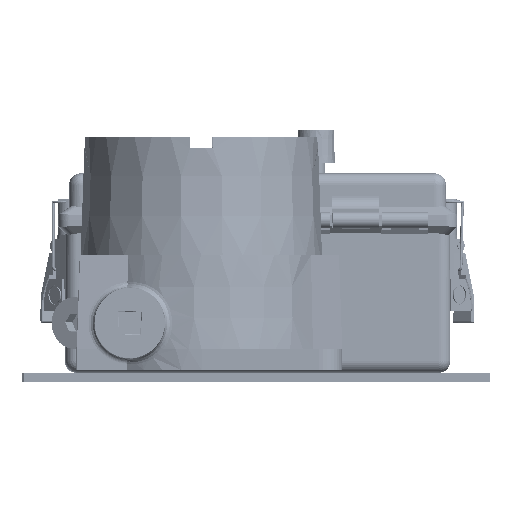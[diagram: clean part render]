
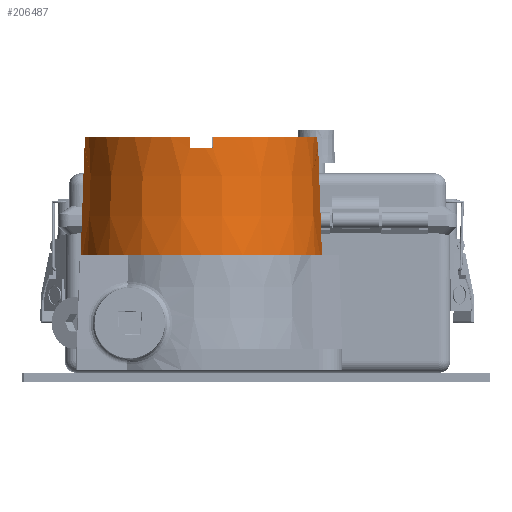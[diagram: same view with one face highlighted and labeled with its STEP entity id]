
A CAD part, left-side view. The second image highlights one B-rep face of the part: STEP entity #206487.
In plain terms, the highlighted conical face has half-angle 2 degrees and reference radius 65.278 mm.
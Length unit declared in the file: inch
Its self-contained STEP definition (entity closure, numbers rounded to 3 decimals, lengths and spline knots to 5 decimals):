
#3407 = EDGE_CURVE ( 'NONE', #348503, #324610, #245439, .T. ) ;
#5058 = CIRCLE ( 'NONE', #104337, 2.48165 ) ;
#12211 = CARTESIAN_POINT ( 'NONE',  ( -9.51356, 1.46455, 5.0325 ) ) ;
#15122 = DIRECTION ( 'NONE',  ( -0.002, 1., 0. ) ) ;
#16395 = VERTEX_POINT ( 'NONE', #247414 ) ;
#21956 = DIRECTION ( 'NONE',  ( -0.002, 1., 0. ) ) ;
#27226 = CARTESIAN_POINT ( 'NONE',  ( -9.75359, 3.93456, 5.0325 ) ) ;
#31430 = CARTESIAN_POINT ( 'NONE',  ( -9.51356, 1.46455, 4.7825 ) ) ;
#32337 = ORIENTED_EDGE ( 'NONE', *, *, #204462, .T. ) ;
#45065 = DIRECTION ( 'NONE',  ( -0.002, 1., 0. ) ) ;
#45720 = B_SPLINE_CURVE_WITH_KNOTS ( 'NONE', 3,
 ( #283275, #48166, #343444, #159138 ),
 .UNSPECIFIED., .F., .F.,
 ( 4, 4 ),
 ( 0., 0.00636 ),
 .UNSPECIFIED. ) ;
#45846 = FACE_OUTER_BOUND ( 'NONE', #88992, .T. ) ;
#48166 = CARTESIAN_POINT ( 'NONE',  ( -11.98886, 1.21869, 4.86583 ) ) ;
#65112 = DIRECTION ( 'NONE',  ( 0., 0.035, -0.999 ) ) ;
#67785 = DIRECTION ( 'NONE',  ( -0.002, 1., 0. ) ) ;
#70401 = CARTESIAN_POINT ( 'NONE',  ( -9.51356, 1.46455, 4.7825 ) ) ;
#74057 = CARTESIAN_POINT ( 'NONE',  ( -9.74935, -1.01172, 4.86583 ) ) ;
#75176 = EDGE_CURVE ( 'NONE', #229095, #168287, #243838, .T. ) ;
#77986 = DIRECTION ( 'NONE',  ( 0., -0.035, -0.999 ) ) ;
#85472 = CARTESIAN_POINT ( 'NONE',  ( -9.51863, 3.95492, 4.7825 ) ) ;
#85960 = ORIENTED_EDGE ( 'NONE', *, *, #252573, .F. ) ;
#88992 = EDGE_LOOP ( 'NONE', ( #159249, #112293, #382295, #143153, #292650, #237853, #32337, #112433, #184297, #85960, #254538, #355016 ) ) ;
#92110 = B_SPLINE_CURVE_WITH_KNOTS ( 'NONE', 3,
 ( #340181, #74057, #128592, #192611 ),
 .UNSPECIFIED., .F., .F.,
 ( 4, 4 ),
 ( 0., 0.00636 ),
 .UNSPECIFIED. ) ;
#93035 = VERTEX_POINT ( 'NONE', #156412 ) ;
#95301 = CIRCLE ( 'NONE', #169881, 2.49038 ) ;
#96222 = CIRCLE ( 'NONE', #139490, 2.49038 ) ;
#98608 = CARTESIAN_POINT ( 'NONE',  ( -11.99248, 1.70324, 4.7825 ) ) ;
#99696 = EDGE_CURVE ( 'NONE', #16395, #93035, #5058, .T. ) ;
#100754 = VERTEX_POINT ( 'NONE', #147968 ) ;
#104337 = AXIS2_PLACEMENT_3D ( 'NONE', #12211, #247274, #365737 ) ;
#110960 = LINE ( 'NONE', #231353, #356370 ) ;
#111324 = CARTESIAN_POINT ( 'NONE',  ( -9.51356, 1.46455, 5.0325 ) ) ;
#111369 = CARTESIAN_POINT ( 'NONE',  ( -9.75651, 3.9372, 4.94917 ) ) ;
#112293 = ORIENTED_EDGE ( 'NONE', *, *, #208948, .F. ) ;
#112433 = ORIENTED_EDGE ( 'NONE', *, *, #283226, .F. ) ;
#112888 = CIRCLE ( 'NONE', #329991, 2.49038 ) ;
#113167 = CARTESIAN_POINT ( 'NONE',  ( -9.51356, 1.46455, 2.5025 ) ) ;
#125837 = CARTESIAN_POINT ( 'NONE',  ( -9.76234, 3.94247, 4.7825 ) ) ;
#128592 = CARTESIAN_POINT ( 'NONE',  ( -9.74644, -1.00908, 4.94917 ) ) ;
#139490 = AXIS2_PLACEMENT_3D ( 'NONE', #70401, #192749, #45065 ) ;
#142428 = CARTESIAN_POINT ( 'NONE',  ( -9.76234, 3.94247, 4.7825 ) ) ;
#143153 = ORIENTED_EDGE ( 'NONE', *, *, #99696, .F. ) ;
#147968 = CARTESIAN_POINT ( 'NONE',  ( -9.50834, -1.10545, 2.5025 ) ) ;
#156412 = CARTESIAN_POINT ( 'NONE',  ( -9.74354, -1.00642, 5.0325 ) ) ;
#157608 = VERTEX_POINT ( 'NONE', #305307 ) ;
#159138 = CARTESIAN_POINT ( 'NONE',  ( -11.98358, 1.22452, 5.0325 ) ) ;
#159249 = ORIENTED_EDGE ( 'NONE', *, *, #368775, .F. ) ;
#162793 = CARTESIAN_POINT ( 'NONE',  ( -9.51356, 1.46455, 4.7825 ) ) ;
#166209 = CIRCLE ( 'NONE', #290293, 2.48165 ) ;
#168287 = VERTEX_POINT ( 'NONE', #334750 ) ;
#169881 = AXIS2_PLACEMENT_3D ( 'NONE', #31430, #333868, #67785 ) ;
#170551 = CARTESIAN_POINT ( 'NONE',  ( -11.98984, 1.70033, 4.86583 ) ) ;
#180658 = EDGE_CURVE ( 'NONE', #371117, #157608, #95301, .T. ) ;
#184297 = ORIENTED_EDGE ( 'NONE', *, *, #3407, .F. ) ;
#184801 = VERTEX_POINT ( 'NONE', #195931 ) ;
#192611 = CARTESIAN_POINT ( 'NONE',  ( -9.74354, -1.00642, 5.0325 ) ) ;
#192749 = DIRECTION ( 'NONE',  ( 0., 0., 1. ) ) ;
#195931 = CARTESIAN_POINT ( 'NONE',  ( -9.5085, -1.02583, 4.7825 ) ) ;
#198096 = AXIS2_PLACEMENT_3D ( 'NONE', #113167, #231679, #291777 ) ;
#203526 = CARTESIAN_POINT ( 'NONE',  ( -11.98454, 1.69452, 5.0325 ) ) ;
#204462 = EDGE_CURVE ( 'NONE', #371117, #268148, #242879, .T. ) ;
#206446 = CARTESIAN_POINT ( 'NONE',  ( -9.75359, 3.93456, 5.0325 ) ) ;
#206487 = ADVANCED_FACE ( 'NONE', ( #45846 ), #248314, .T. ) ;
#208948 = EDGE_CURVE ( 'NONE', #354838, #184801, #112888, .T. ) ;
#220372 = EDGE_CURVE ( 'NONE', #168287, #100754, #365576, .T. ) ;
#221940 = VECTOR ( 'NONE', #65112, 39.37008 ) ;
#229095 = VERTEX_POINT ( 'NONE', #85472 ) ;
#231353 = CARTESIAN_POINT ( 'NONE',  ( -9.50834, -1.10545, 2.5025 ) ) ;
#231679 = DIRECTION ( 'NONE',  ( 0., 0., 1. ) ) ;
#236118 = EDGE_CURVE ( 'NONE', #157608, #16395, #45720, .T. ) ;
#237853 = ORIENTED_EDGE ( 'NONE', *, *, #180658, .F. ) ;
#241923 = AXIS2_PLACEMENT_3D ( 'NONE', #339201, #306219, #370308 ) ;
#242879 = B_SPLINE_CURVE_WITH_KNOTS ( 'NONE', 3,
 ( #285179, #170551, #341534, #288979 ),
 .UNSPECIFIED., .F., .F.,
 ( 4, 4 ),
 ( 0., 0.00636 ),
 .UNSPECIFIED. ) ;
#243838 = LINE ( 'NONE', #269108, #221940 ) ;
#245439 = B_SPLINE_CURVE_WITH_KNOTS ( 'NONE', 3,
 ( #142428, #377459, #111369, #206446 ),
 .UNSPECIFIED., .F., .F.,
 ( 4, 4 ),
 ( 0., 0.00636 ),
 .UNSPECIFIED. ) ;
#247274 = DIRECTION ( 'NONE',  ( 0., 0., 1. ) ) ;
#247414 = CARTESIAN_POINT ( 'NONE',  ( -11.98358, 1.22452, 5.0325 ) ) ;
#248314 = CONICAL_SURFACE ( 'NONE', #241923, 2.57, 0.035 ) ;
#252573 = EDGE_CURVE ( 'NONE', #229095, #348503, #96222, .T. ) ;
#254538 = ORIENTED_EDGE ( 'NONE', *, *, #75176, .T. ) ;
#262717 = DIRECTION ( 'NONE',  ( 0., 0., 1. ) ) ;
#268148 = VERTEX_POINT ( 'NONE', #203526 ) ;
#269108 = CARTESIAN_POINT ( 'NONE',  ( -9.51879, 4.03454, 2.5025 ) ) ;
#281197 = DIRECTION ( 'NONE',  ( 0., 0., 1. ) ) ;
#283226 = EDGE_CURVE ( 'NONE', #324610, #268148, #166209, .T. ) ;
#283275 = CARTESIAN_POINT ( 'NONE',  ( -11.99149, 1.21578, 4.7825 ) ) ;
#285179 = CARTESIAN_POINT ( 'NONE',  ( -11.99248, 1.70324, 4.7825 ) ) ;
#288979 = CARTESIAN_POINT ( 'NONE',  ( -11.98454, 1.69452, 5.0325 ) ) ;
#290293 = AXIS2_PLACEMENT_3D ( 'NONE', #111324, #262717, #21956 ) ;
#291777 = DIRECTION ( 'NONE',  ( -0.002, 1., 0. ) ) ;
#292650 = ORIENTED_EDGE ( 'NONE', *, *, #236118, .F. ) ;
#305307 = CARTESIAN_POINT ( 'NONE',  ( -11.99149, 1.21578, 4.7825 ) ) ;
#306219 = DIRECTION ( 'NONE',  ( 0., 0., -1. ) ) ;
#324610 = VERTEX_POINT ( 'NONE', #27226 ) ;
#329368 = EDGE_CURVE ( 'NONE', #354838, #93035, #92110, .T. ) ;
#329991 = AXIS2_PLACEMENT_3D ( 'NONE', #162793, #281197, #15122 ) ;
#332360 = CARTESIAN_POINT ( 'NONE',  ( -9.75225, -1.01437, 4.7825 ) ) ;
#333868 = DIRECTION ( 'NONE',  ( 0., 0., 1. ) ) ;
#334750 = CARTESIAN_POINT ( 'NONE',  ( -9.51879, 4.03454, 2.5025 ) ) ;
#339201 = CARTESIAN_POINT ( 'NONE',  ( -9.51356, 1.46455, 2.5025 ) ) ;
#340181 = CARTESIAN_POINT ( 'NONE',  ( -9.75225, -1.01437, 4.7825 ) ) ;
#341534 = CARTESIAN_POINT ( 'NONE',  ( -11.98719, 1.69743, 4.94917 ) ) ;
#343444 = CARTESIAN_POINT ( 'NONE',  ( -11.98622, 1.22161, 4.94917 ) ) ;
#348503 = VERTEX_POINT ( 'NONE', #125837 ) ;
#354838 = VERTEX_POINT ( 'NONE', #332360 ) ;
#355016 = ORIENTED_EDGE ( 'NONE', *, *, #220372, .T. ) ;
#356370 = VECTOR ( 'NONE', #77986, 39.37008 ) ;
#365576 = CIRCLE ( 'NONE', #198096, 2.57 ) ;
#365737 = DIRECTION ( 'NONE',  ( -0.002, 1., 0. ) ) ;
#368775 = EDGE_CURVE ( 'NONE', #184801, #100754, #110960, .T. ) ;
#370308 = DIRECTION ( 'NONE',  ( -0.002, 1., 0. ) ) ;
#371117 = VERTEX_POINT ( 'NONE', #98608 ) ;
#377459 = CARTESIAN_POINT ( 'NONE',  ( -9.75942, 3.93984, 4.86583 ) ) ;
#382295 = ORIENTED_EDGE ( 'NONE', *, *, #329368, .T. ) ;
